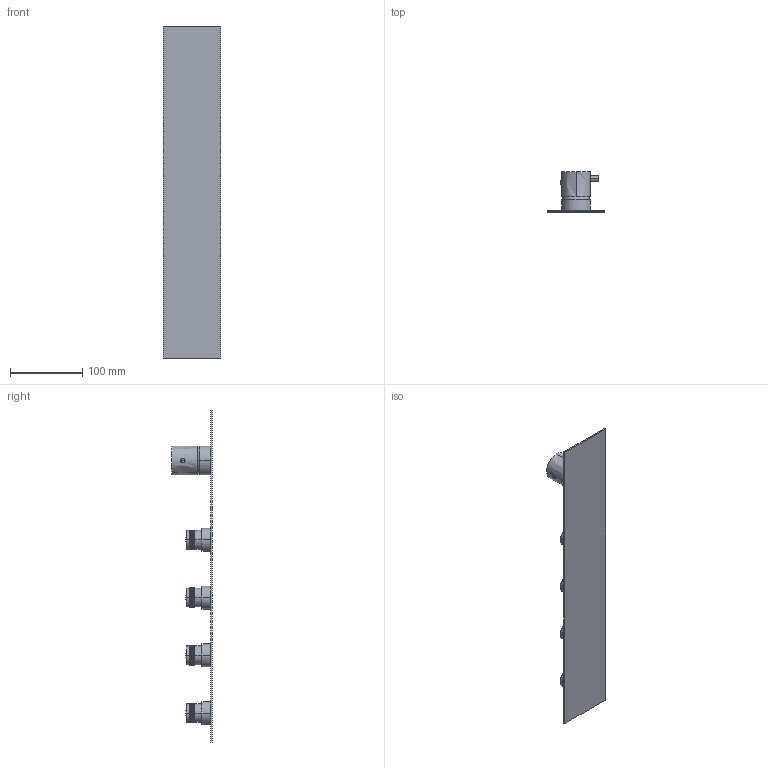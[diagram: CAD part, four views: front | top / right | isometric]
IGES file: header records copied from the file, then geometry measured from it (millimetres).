
Start section:  PTC IGES file: 69000v4.igs
Global section: file name: 69000v4.igs; native system: Creo Parametric by PTC Inc.; preprocessor: 2022014; author: carloff; organization: Unknown; date: 20251125.150400; units: millimetre
Bounding box: 80 x 55.7 x 460 mm (x, y, z)
Surface area: 96360 mm2 (no closed solid volume)
Topology: 0 solids, 0 shells, 6586 faces, 32810 edges, 32800 vertices
Faces by surface type: bspline 5148, revolution 1438
